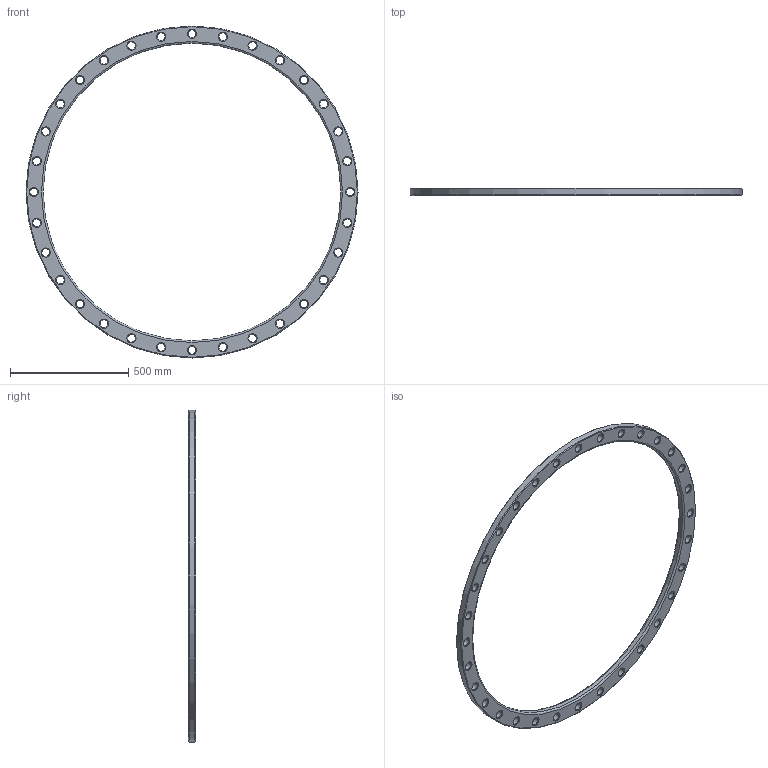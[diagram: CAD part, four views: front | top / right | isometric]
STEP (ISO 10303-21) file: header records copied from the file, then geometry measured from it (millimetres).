
FILE_DESCRIPTION(/* description */ ('Unknown'),/* implementation_level */ '2;1');
FILE_NAME(/* name */ 'FZ1200A',/* time_stamp */ '2021-03-15T09:34:58+01:00',/* author */ ('Unknown'),/* organization */ ('Unknown'),/* preprocessor_version */ 'ST-DEVELOPER v16.7',/* originating_system */ 'Solid Edge',/* authorisation */ 'Unknown');
FILE_SCHEMA (('AUTOMOTIVE_DESIGN {1 0 10303 214 3 1 1}'));
Length unit declared in the file: millimetre
Products named in the file (1): FZ1200A
Bounding box: 1405 x 31 x 1405 mm (x, y, z)
Volume: 8405173.9 mm3; surface area: 864452 mm2
Topology: 1 solids, 1 shells, 104 faces, 334 edges, 232 vertices
Faces by surface type: cone 66, cylinder 34, plane 2, torus 2
Full cylindrical faces by diameter (mm): 33 x32, 1260 x1, 1405 x1
Entity records: 2566 total; most frequent: DIRECTION 482, CARTESIAN_POINT 377, ORIENTED_EDGE 272, EDGE_LOOP 272, FACE_BOUND 272, AXIS2_PLACEMENT_3D 241, EDGE_CURVE 136, VERTEX_POINT 136
